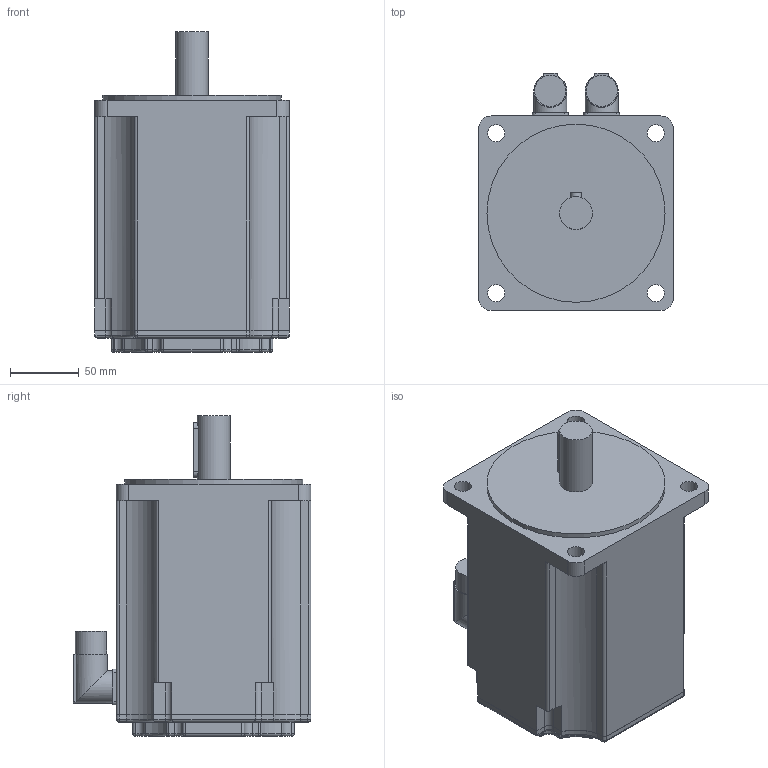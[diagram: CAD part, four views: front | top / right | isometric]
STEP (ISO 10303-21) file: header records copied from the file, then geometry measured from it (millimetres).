
FILE_DESCRIPTION(/* description */ (''),/* implementation_level */ '2;1');
FILE_NAME(/* name */ '\\Lafnas01\disegni\Archivi Lafert\3D\CAD 3D\MODELLI\Assiemi clienti\Serad\Modelli 3D Serad\B71Q\Encoder\Enc Without Brake\B7108Qxx6ARx2033.ipt.stp',/* time_stamp */ '2015-09-07T10:52:25+02:00',/* author */ ('Pastrello Ylenia'),/* organization */ (''),/* preprocessor_version */ 'ST-DEVELOPER v15.6',/* originating_system */ 'Autodesk Inventor 2015',/* authorisation */ '');
FILE_SCHEMA (('AUTOMOTIVE_DESIGN { 1 0 10303 214 3 1 1 }'));
Length unit declared in the file: millimetre
Products named in the file (1): B7108Qxx6ARx2033
Bounding box: 142 x 173.5 x 234 mm (x, y, z)
Volume: 3264773.6 mm3; surface area: 149109.6 mm2
Topology: 1 solids, 1 shells, 251 faces, 624 edges, 386 vertices
Faces by surface type: cylinder 118, plane 93, torus 20, sphere 20
Full cylindrical faces by diameter (mm): 12.5 x4, 22.7 x2, 24 x3, 130 x1
Entity records: 7508 total; most frequent: CARTESIAN_POINT 1382, DIRECTION 1362, ORIENTED_EDGE 1220, EDGE_CURVE 610, AXIS2_PLACEMENT_3D 510, VERTEX_POINT 382, LINE 342, VECTOR 342
